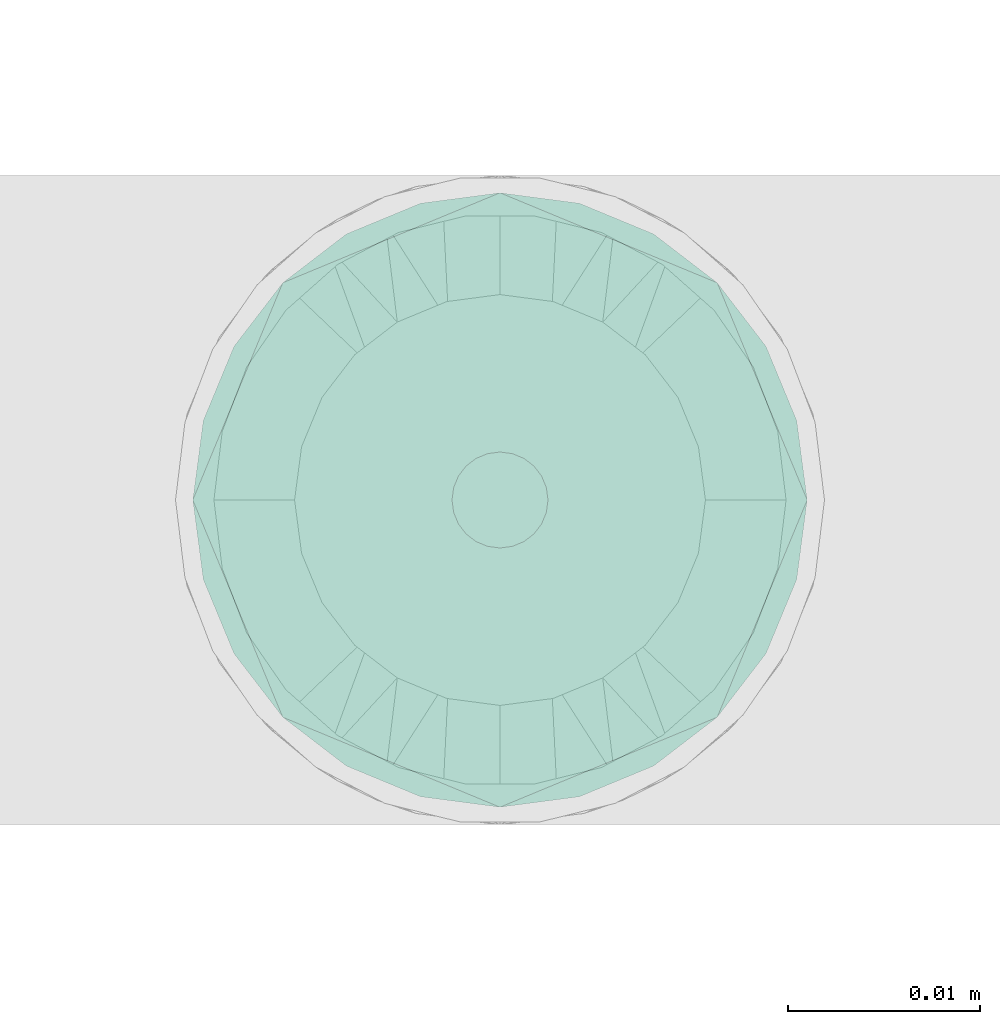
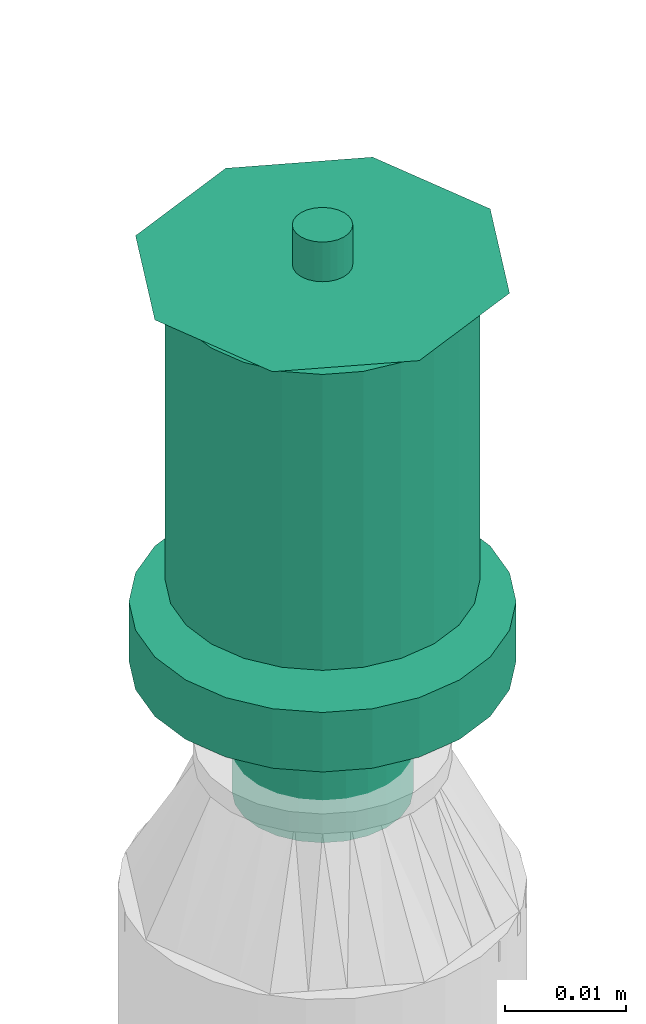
# One storey, part 32 of 157: 1 flow terminal.
"""IFC2X3 building model written with IfcOpenShell, lengths in millimetres."""

from ifc_helpers import new_model, entity, si_unit, converted_unit, derived_unit, direction, frame, origin_with_axes, place, context, subcontext, project, spatial, open_shell, surface_model, source, transform, mapped, type_object, element, save


model = new_model("IFC2X3")

# Units and contexts
model_context = context("Model", 3, precision=0.01, world=frame((0.0, 4.29681676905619e-09, 0.0)), true_north=direction((4.01073788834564e-13, 1.0)))
plan_context = context("Plan", 3, precision=0.01, world=frame((0.0, 4.29681676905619e-09, 0.0)), true_north=direction((4.01073788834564e-13, 1.0)))
body_context = subcontext(model_context, "Body", "Model", "MODEL_VIEW")
ifc_project = project(units=[converted_unit("PLANEANGLEUNIT", "DEGREE", entity("IfcPositiveLengthMeasure", 0.0174532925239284), si_unit("PLANEANGLEUNIT", "RADIAN"), dimensions=[0, 0, 0, 0, 0, 0, 0]), si_unit("AREAUNIT", "SQUARE_METRE"), si_unit("LENGTHUNIT", "METRE", prefix="MILLI"), si_unit("MASSUNIT", "GRAM", prefix="KILO"), si_unit("POWERUNIT", "WATT"), si_unit("PRESSUREUNIT", "PASCAL"), si_unit("FORCEUNIT", "NEWTON", prefix="KILO"), si_unit("ELECTRICCURRENTUNIT", "AMPERE"), si_unit("THERMODYNAMICTEMPERATUREUNIT", "DEGREE_CELSIUS"), si_unit("TIMEUNIT", "SECOND"), si_unit("VOLUMEUNIT", "CUBIC_METRE"), derived_unit("LINEARVELOCITYUNIT", [(si_unit("LENGTHUNIT", "METRE"), 1), (si_unit("TIMEUNIT", "SECOND"), -1)]), derived_unit("VOLUMETRICFLOWRATEUNIT", [(si_unit("VOLUMEUNIT", "CUBIC_METRE"), 1), (si_unit("TIMEUNIT", "SECOND"), -1)]), derived_unit("THERMALTRANSMITTANCEUNIT", [(si_unit("POWERUNIT", "WATT"), 1), (si_unit("THERMODYNAMICTEMPERATUREUNIT", "KELVIN"), -1), (si_unit("AREAUNIT", "SQUARE_METRE"), -1)])], contexts=[model_context, plan_context])

# Site, building, storey
site_placement = place(None, frame((0.0, -4.29681676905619e-09, 0.0), z_axis=(0.0, 0.0, 1.0), x_axis=(1.0, 0.0, 0.0)))
site = spatial("IfcSite", under=ifc_project, at=site_placement, CompositionType="ELEMENT")
building_placement = place(site_placement, frame((0.0, 4.29681676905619e-09, 0.0), z_axis=(0.0, 0.0, 1.0), x_axis=(1.0, 0.0, 0.0)))
building = spatial("IfcBuilding", under=site, at=building_placement, Name="mc-building", CompositionType="ELEMENT")
storey_placement = place(building_placement, frame((0.0, 0.0, 204000.0), z_axis=(0.0, 0.0, 1.0), x_axis=(1.0, 0.0, 0.0)))
storey = spatial("IfcBuildingStorey", under=building, at=storey_placement, Name="Nivå D", CompositionType="ELEMENT", Elevation=204000.0)

# Flow terminal
fire_suppression_terminal_type = type_object("IfcFireSuppressionTerminalType", Name="68DGR-STD-STÅENDE", PredefinedType="NOTDEFINED")
shared_shape = source(origin_with_axes(), body_context, "Body", "SurfaceModel", [
    surface_model("IfcShellBasedSurfaceModel", [(3.36465, -12.55704, 51.0), (6.5, -11.25833, 51.0), (9.19239, -9.19239, 51.0), (12.55704, -3.36465, 51.0), (-11.25833, -6.5, 51.0), (11.25833, -6.5, 51.0), (-13.0, 0.0, 51.0), (0.0, -13.0, 51.0), (-6.5, -11.25833, 51.0), (-3.36465, -12.55704, 51.0), (-9.19239, -9.19239, 51.0), (-12.55704, -3.36465, 51.0), (13.0, 0.0, 51.0), (12.55704, 3.36465, 51.0), (11.25833, 6.5, 51.0), (9.19239, 9.19239, 51.0), (6.5, 11.25833, 51.0), (3.36465, 12.55704, 51.0), (0.0, 13.0, 51.0), (-3.36465, 12.55704, 51.0), (-12.55704, 3.36465, 51.0), (-9.19239, 9.19239, 51.0), (-11.25833, 6.5, 51.0), (-6.5, 11.25833, 51.0), (0.0, 13.0, 21.14766), (3.36465, 12.55704, 21.14766), (6.5, 11.25833, 21.14766), (-3.36465, 12.55704, 21.14766), (9.19239, 9.19239, 21.14766), (11.25833, 6.5, 21.14766), (12.55704, 3.36465, 21.14766), (-12.55704, 3.36465, 21.14766), (-11.25833, -6.5, 21.14766), (-9.19239, 9.19239, 21.14766), (-6.5, 11.25833, 21.14766), (-11.25833, 6.5, 21.14766), (-13.0, 0.0, 21.14766), (12.55704, -3.36465, 21.14766), (9.19239, -9.19239, 21.14766), (11.25833, -6.5, 21.14766), (6.5, -11.25833, 21.14766), (3.36465, -12.55704, 21.14766), (-6.5, -11.25833, 21.14766), (-9.19239, -9.19239, 21.14766), (-12.55704, -3.36465, 21.14766), (0.0, -13.0, 21.14766), (-3.36465, -12.55704, 21.14766), (13.0, 0.0, 21.14766), (7.24444, -1.94114, 0.1), (1.94114, -7.24444, 0.1), (3.75, -6.49519, 0.1), (5.3033, -5.3033, 0.1), (-5.3033, -5.3033, 0.1), (6.49519, -3.75, 0.1), (5.3033, 5.3033, 0.1), (0.0, -7.5, 0.1), (-3.75, -6.49519, 0.1), (-1.94114, -7.24444, 0.1), (-7.24444, -1.94114, 0.1), (-6.49519, -3.75, 0.1), (-7.24444, 1.94114, 0.1), (7.5, 0.0, 0.1), (6.49519, 3.75, 0.1), (-6.49519, 3.75, 0.1), (1.94114, 7.24444, 0.1), (0.0, 7.5, 0.1), (3.75, 6.49519, 0.1), (-7.5, 0.0, 0.1), (-5.3033, 5.3033, 0.1), (-1.94114, 7.24444, 0.1), (-3.75, 6.49519, 0.1), (7.24444, 1.94114, 0.1), (1.94114, 7.24444, -0.1), (-6.49519, 3.75, -0.1), (0.0, 7.5, -0.1), (5.3033, 5.3033, -0.1), (3.75, 6.49519, -0.1), (6.49519, 3.75, -0.1), (7.24444, 1.94114, -0.1), (-1.94114, 7.24444, -0.1), (-5.3033, 5.3033, -0.1), (-3.75, 6.49519, -0.1), (-7.24444, 1.94114, -0.1), (-7.24444, -1.94114, -0.1), (-7.5, 0.0, -0.1), (7.5, 0.0, -0.1), (7.24444, -1.94114, -0.1), (-5.3033, -5.3033, -0.1), (1.94114, -7.24444, -0.1), (6.49519, -3.75, -0.1), (5.3033, -5.3033, -0.1), (3.75, -6.49519, -0.1), (-6.49519, -3.75, -0.1), (-3.75, -6.49519, -0.1), (0.0, -7.5, -0.1), (-1.94114, -7.24444, -0.1), (0.0, -2.5, 51.0), (-2.5, 0.0, 51.0), (0.0, 2.5, 51.0), (2.5, 0.0, 51.0), (0.0, -16.0, 53.0), (11.31371, -11.31371, 53.0), (-11.31371, -11.31371, 53.0), (-16.0, 0.0, 53.0), (16.0, 0.0, 53.0), (11.31371, 11.31371, 53.0), (0.0, 16.0, 53.0), (-11.31371, 11.31371, 53.0), (1.25, -2.16506, 57.0), (0.0, -2.5, 57.0), (0.64705, -2.41481, 57.0), (2.41481, -0.64705, 57.0), (1.76777, -1.76777, 57.0), (-2.41481, -0.64705, 57.0), (-2.5, 0.0, 57.0), (2.16506, -1.25, 57.0), (-1.25, -2.16506, 57.0), (-0.64705, -2.41481, 57.0), (-1.76777, -1.76777, 57.0), (-2.16506, -1.25, 57.0), (2.5, 0.0, 57.0), (2.41481, 0.64705, 57.0), (2.16506, 1.25, 57.0), (1.76777, 1.76777, 57.0), (0.64705, 2.41481, 57.0), (1.25, 2.16506, 57.0), (-1.76777, 1.76777, 57.0), (0.0, 2.5, 57.0), (-2.16506, 1.25, 57.0), (-2.41481, 0.64705, 57.0), (-0.64705, 2.41481, 57.0), (-1.25, 2.16506, 57.0), (1.25, 2.16506, 51.0), (1.76777, 1.76777, 51.0), (1.15, 1.99186, 51.0), (0.59528, 2.22163, 51.0), (0.64705, 2.41481, 51.0), (0.0, 2.3, 51.0), (1.62635, 1.62635, 51.0), (2.41481, 0.64705, 51.0), (2.3, 0.0, 51.0), (2.22163, 0.59528, 51.0), (2.16506, 1.25, 51.0), (1.99186, 1.15, 51.0), (-0.59528, 2.22163, 51.0), (-0.64705, 2.41481, 51.0), (-1.15, 1.99186, 51.0), (-1.76777, 1.76777, 51.0), (-1.25, 2.16506, 51.0), (-1.62635, 1.62635, 51.0), (-1.99186, 1.15, 51.0), (-2.16506, 1.25, 51.0), (-2.22163, 0.59528, 51.0), (-2.41481, 0.64705, 51.0), (-2.3, 0.0, 51.0), (2.41481, -0.64705, 51.0), (2.22163, -0.59528, 51.0), (1.99186, -1.15, 51.0), (2.16506, -1.25, 51.0), (1.62635, -1.62635, 51.0), (1.76777, -1.76777, 51.0), (1.25, -2.16506, 51.0), (1.15, -1.99186, 51.0), (0.59528, -2.22163, 51.0), (0.64705, -2.41481, 51.0), (0.0, -2.3, 51.0), (-2.16506, -1.25, 51.0), (-1.99186, -1.15, 51.0), (-1.76777, -1.76777, 51.0), (-1.62635, -1.62635, 51.0), (-2.41481, -0.64705, 51.0), (-2.22163, -0.59528, 51.0), (-0.59528, -2.22163, 51.0), (-0.64705, -2.41481, 51.0), (-1.15, -1.99186, 51.0), (-1.25, -2.16506, 51.0), (1.62635, -1.62635, 56.8), (1.15, -1.99186, 56.8), (0.59528, -2.22163, 56.8), (0.0, -2.3, 56.8), (2.22163, 0.59528, 56.8), (1.99186, -1.15, 56.8), (2.22163, -0.59528, 56.8), (-0.59528, -2.22163, 56.8), (-1.15, -1.99186, 56.8), (-1.62635, -1.62635, 56.8), (-1.99186, -1.15, 56.8), (-2.22163, -0.59528, 56.8), (-1.99186, 1.15, 56.8), (2.3, 0.0, 56.8), (1.62635, 1.62635, 56.8), (1.99186, 1.15, 56.8), (1.15, 1.99186, 56.8), (0.0, 2.3, 56.8), (0.59528, 2.22163, 56.8), (-2.22163, 0.59528, 56.8), (-2.3, 0.0, 56.8), (-1.15, 1.99186, 56.8), (-0.59528, 2.22163, 56.8), (-1.62635, 1.62635, 56.8), (4.1411, -15.45481, 19.0), (8.0, -13.85641, 19.0), (11.31371, -11.31371, 19.0), (-8.0, -13.85641, 19.0), (15.45481, -4.1411, 19.0), (16.0, 0.0, 19.0), (13.85641, -8.0, 19.0), (0.0, -16.0, 19.0), (-4.1411, -15.45481, 19.0), (-13.85641, -8.0, 19.0), (-11.31371, -11.31371, 19.0), (-15.45481, -4.1411, 19.0), (15.45481, 4.1411, 19.0), (13.85641, 8.0, 19.0), (11.31371, 11.31371, 19.0), (-4.1411, 15.45481, 19.0), (8.0, 13.85641, 19.0), (4.1411, 15.45481, 19.0), (0.0, 16.0, 19.0), (-13.85641, 8.0, 19.0), (-15.45481, 4.1411, 19.0), (-16.0, 0.0, 19.0), (-11.31371, 11.31371, 19.0), (-8.0, 13.85641, 19.0), (0.0, 16.0, 13.0), (4.1411, 15.45481, 13.0), (8.0, 13.85641, 13.0), (-4.1411, 15.45481, 13.0), (11.31371, 11.31371, 13.0), (13.85641, 8.0, 13.0), (15.45481, 4.1411, 13.0), (-15.45481, -4.1411, 13.0), (-11.31371, 11.31371, 13.0), (-8.0, 13.85641, 13.0), (-13.85641, 8.0, 13.0), (-15.45481, 4.1411, 13.0), (-16.0, 0.0, 13.0), (4.1411, -15.45481, 13.0), (16.0, 0.0, 13.0), (15.45481, -4.1411, 13.0), (13.85641, -8.0, 13.0), (11.31371, -11.31371, 13.0), (8.0, -13.85641, 13.0), (-8.0, -13.85641, 13.0), (-13.85641, -8.0, 13.0), (-11.31371, -11.31371, 13.0), (0.0, -16.0, 13.0), (-4.1411, -15.45481, 13.0), (7.24444, -1.94114, 13.0), (1.94114, -7.24444, 13.0), (3.75, -6.49519, 13.0), (5.3033, -5.3033, 13.0), (-5.3033, -5.3033, 13.0), (6.49519, -3.75, 13.0), (5.3033, 5.3033, 13.0), (0.0, -7.5, 13.0), (-3.75, -6.49519, 13.0), (-1.94114, -7.24444, 13.0), (-7.24444, -1.94114, 13.0), (-6.49519, -3.75, 13.0), (-7.24444, 1.94114, 13.0), (7.5, 0.0, 13.0), (6.49519, 3.75, 13.0), (-6.49519, 3.75, 13.0), (1.94114, 7.24444, 13.0), (0.0, 7.5, 13.0), (3.75, 6.49519, 13.0), (-7.5, 0.0, 13.0), (-5.3033, 5.3033, 13.0), (-1.94114, 7.24444, 13.0), (-3.75, 6.49519, 13.0), (7.24444, 1.94114, 13.0), (3.75, 6.49519, 0.0), (5.3033, 5.3033, 0.0), (3.65, 6.32199, 0.0), (1.88938, 7.05126, 0.0), (0.0, 7.3, 0.0), (1.94114, 7.24444, 0.0), (0.0, 7.5, 0.0), (5.16188, 5.16188, 0.0), (7.24444, 1.94114, 0.0), (7.3, 0.0, 0.0), (7.05126, 1.88938, 0.0), (7.5, 0.0, 0.0), (6.49519, 3.75, 0.0), (6.32199, 3.65, 0.0), (-1.88938, 7.05126, 0.0), (-1.94114, 7.24444, 0.0), (-3.65, 6.32199, 0.0), (-5.3033, 5.3033, 0.0), (-3.75, 6.49519, 0.0), (-5.16188, 5.16188, 0.0), (-6.32199, 3.65, 0.0), (-6.49519, 3.75, 0.0), (-7.05126, 1.88938, 0.0), (-7.24444, 1.94114, 0.0), (-7.3, 0.0, 0.0), (-7.5, 0.0, 0.0), (7.24444, -1.94114, 0.0), (7.05126, -1.88938, 0.0), (6.32199, -3.65, 0.0), (6.49519, -3.75, 0.0), (5.16188, -5.16188, 0.0), (5.3033, -5.3033, 0.0), (3.75, -6.49519, 0.0), (3.65, -6.32199, 0.0), (1.88938, -7.05126, 0.0), (1.94114, -7.24444, 0.0), (0.0, -7.3, 0.0), (0.0, -7.5, 0.0), (-6.49519, -3.75, 0.0), (-6.32199, -3.65, 0.0), (-5.3033, -5.3033, 0.0), (-5.16188, -5.16188, 0.0), (-7.24444, -1.94114, 0.0), (-7.05126, -1.88938, 0.0), (-1.88938, -7.05126, 0.0), (-1.94114, -7.24444, 0.0), (-3.65, -6.32199, 0.0), (-3.75, -6.49519, 0.0), (1.88938, -7.05126, 12.8), (0.0, -7.3, 12.8), (3.65, -6.32199, 12.8), (5.16188, -5.16188, 12.8), (6.32199, -3.65, 12.8), (7.05126, 1.88938, 12.8), (7.05126, -1.88938, 12.8), (-5.16188, -5.16188, 12.8), (-1.88938, -7.05126, 12.8), (-3.65, -6.32199, 12.8), (-6.32199, -3.65, 12.8), (-7.05126, -1.88938, 12.8), (0.0, 7.3, 12.8), (7.3, 0.0, 12.8), (6.32199, 3.65, 12.8), (5.16188, 5.16188, 12.8), (3.65, 6.32199, 12.8), (1.88938, 7.05126, 12.8), (-6.32199, 3.65, 12.8), (-7.05126, 1.88938, 12.8), (-7.3, 0.0, 12.8), (-3.65, 6.32199, 12.8), (-1.88938, 7.05126, 12.8), (-5.16188, 5.16188, 12.8)], [open_shell([[[0, 1, 2]], [[0, 2, 3]], [[0, 3, 4]], [[3, 2, 5]], [[6, 4, 3]], [[7, 8, 9]], [[7, 0, 8]], [[8, 4, 10]], [[0, 4, 8]], [[4, 6, 11]], [[6, 3, 12]], [[13, 14, 15]], [[6, 13, 15]], [[16, 17, 18]], [[15, 16, 19]], [[18, 19, 16]], [[20, 21, 22]], [[20, 6, 15]], [[21, 19, 23]], [[19, 21, 20]], [[15, 19, 20]], [[13, 6, 12]], [[24, 25, 26]], [[27, 24, 26]], [[28, 29, 30]], [[26, 28, 31]], [[28, 32, 31]], [[27, 33, 34]], [[33, 27, 31]], [[33, 31, 35]], [[27, 26, 31]], [[31, 32, 36]], [[32, 28, 30]], [[32, 30, 37]], [[38, 37, 39]], [[38, 40, 41]], [[38, 41, 37]], [[32, 37, 41]], [[32, 42, 43]], [[44, 36, 32]], [[42, 45, 46]], [[42, 32, 41]], [[45, 42, 41]], [[30, 47, 37]], [[4, 32, 43]], [[8, 42, 46]], [[43, 42, 10]], [[9, 46, 45]], [[36, 11, 6]], [[11, 36, 44]], [[11, 44, 4]], [[44, 32, 4]], [[43, 10, 4]], [[8, 10, 42]], [[46, 9, 8]], [[45, 7, 9]], [[0, 41, 40]], [[38, 1, 40]], [[5, 39, 37]], [[38, 39, 2]], [[3, 37, 47]], [[41, 0, 7]], [[40, 1, 0]], [[38, 2, 1]], [[39, 5, 2]], [[3, 5, 37]], [[47, 12, 3]], [[41, 7, 45]], [[30, 13, 47]], [[29, 14, 30]], [[25, 24, 17]], [[15, 29, 28]], [[30, 14, 13]], [[13, 12, 47]], [[16, 26, 17]], [[16, 15, 28]], [[26, 25, 17]], [[15, 14, 29]], [[28, 26, 16]], [[24, 18, 17]], [[19, 27, 34]], [[33, 23, 34]], [[22, 35, 31]], [[33, 35, 21]], [[20, 31, 36]], [[27, 19, 18]], [[34, 23, 19]], [[33, 21, 23]], [[35, 22, 21]], [[20, 22, 31]], [[36, 6, 20]], [[27, 18, 24]], [[48, 49, 50]], [[48, 50, 51]], [[49, 48, 52]], [[48, 51, 53]], [[54, 52, 48]], [[55, 56, 57]], [[56, 55, 52]], [[52, 58, 59]], [[52, 55, 49]], [[52, 60, 58]], [[54, 48, 61]], [[62, 54, 61]], [[54, 63, 52]], [[64, 65, 54]], [[64, 54, 66]], [[63, 54, 65]], [[63, 60, 52]], [[67, 58, 60]], [[68, 69, 70]], [[69, 68, 63]], [[69, 63, 65]], [[71, 62, 61]], [[72, 73, 74]], [[75, 72, 76]], [[75, 77, 78]], [[72, 75, 73]], [[78, 73, 75]], [[79, 80, 81]], [[80, 79, 73]], [[74, 73, 79]], [[78, 82, 73]], [[82, 83, 84]], [[82, 78, 85]], [[86, 87, 85]], [[88, 86, 89]], [[90, 91, 88]], [[90, 88, 89]], [[87, 86, 88]], [[83, 87, 92]], [[83, 85, 87]], [[93, 94, 95]], [[94, 93, 87]], [[88, 94, 87]], [[85, 83, 82]], [[83, 58, 84]], [[92, 59, 83]], [[56, 87, 93]], [[92, 87, 52]], [[57, 93, 95]], [[83, 59, 58]], [[58, 67, 84]], [[57, 56, 93]], [[52, 87, 56]], [[52, 59, 92]], [[55, 57, 95]], [[95, 94, 55]], [[88, 49, 94]], [[91, 50, 88]], [[53, 90, 89]], [[91, 90, 51]], [[48, 89, 86]], [[91, 51, 50]], [[50, 49, 88]], [[61, 48, 86]], [[53, 89, 48]], [[53, 51, 90]], [[85, 61, 86]], [[94, 49, 55]], [[78, 71, 85]], [[77, 62, 78]], [[66, 75, 76]], [[77, 75, 54]], [[64, 76, 72]], [[78, 62, 71]], [[71, 61, 85]], [[64, 66, 76]], [[54, 75, 66]], [[54, 62, 77]], [[65, 64, 72]], [[72, 74, 65]], [[79, 69, 74]], [[81, 70, 79]], [[63, 80, 73]], [[81, 80, 68]], [[60, 73, 82]], [[81, 68, 70]], [[70, 69, 79]], [[67, 60, 82]], [[63, 73, 60]], [[63, 68, 80]], [[84, 67, 82]], [[74, 69, 65]], [[96, 97, 98]], [[98, 99, 96]], [[100, 101, 102]], [[103, 102, 101]], [[101, 104, 103]], [[104, 105, 106]], [[107, 103, 106]], [[106, 103, 104]], [[99, 98, 105]], [[105, 104, 99]], [[98, 106, 105]], [[98, 107, 106]], [[107, 98, 97]], [[103, 107, 97]], [[97, 96, 102]], [[102, 103, 97]], [[96, 100, 102]], [[96, 101, 100]], [[101, 96, 99]], [[104, 101, 99]], [[108, 109, 110]], [[111, 108, 112]], [[113, 108, 114]], [[111, 112, 115]], [[108, 111, 114]], [[109, 116, 117]], [[116, 109, 118]], [[118, 113, 119]], [[118, 109, 108]], [[108, 113, 118]], [[111, 120, 114]], [[121, 122, 123]], [[114, 121, 123]], [[114, 123, 124]], [[124, 123, 125]], [[126, 124, 127]], [[124, 128, 129]], [[129, 114, 124]], [[126, 130, 131]], [[128, 124, 126]], [[130, 126, 127]], [[121, 114, 120]], [[132, 133, 134]], [[132, 134, 135]], [[136, 135, 137]], [[135, 136, 132]], [[136, 137, 98]], [[134, 133, 138]], [[139, 140, 141]], [[140, 139, 99]], [[139, 141, 142]], [[138, 142, 143]], [[142, 138, 133]], [[143, 142, 141]], [[98, 144, 145]], [[98, 137, 144]], [[145, 144, 146]], [[147, 148, 149]], [[146, 148, 145]], [[149, 148, 146]], [[150, 151, 147]], [[151, 150, 152]], [[150, 147, 149]], [[153, 152, 154]], [[152, 153, 151]], [[153, 154, 97]], [[99, 155, 156]], [[156, 155, 157]], [[157, 158, 159]], [[158, 157, 155]], [[159, 158, 160]], [[160, 161, 162]], [[162, 161, 163]], [[163, 164, 165]], [[164, 163, 161]], [[165, 164, 96]], [[162, 159, 160]], [[166, 167, 168]], [[168, 167, 169]], [[167, 166, 170]], [[97, 171, 170]], [[170, 171, 167]], [[97, 154, 171]], [[172, 96, 173]], [[172, 173, 174]], [[169, 175, 168]], [[175, 169, 174]], [[175, 174, 173]], [[165, 96, 172]], [[156, 140, 99]], [[170, 113, 97]], [[166, 119, 170]], [[116, 168, 175]], [[166, 168, 118]], [[117, 175, 173]], [[170, 119, 113]], [[113, 114, 97]], [[117, 116, 175]], [[118, 168, 116]], [[118, 119, 166]], [[109, 117, 173]], [[173, 96, 109]], [[164, 110, 96]], [[161, 108, 164]], [[115, 160, 158]], [[161, 160, 112]], [[111, 158, 155]], [[161, 112, 108]], [[108, 110, 164]], [[120, 111, 155]], [[115, 158, 111]], [[115, 112, 160]], [[99, 120, 155]], [[96, 110, 109]], [[139, 121, 99]], [[142, 122, 139]], [[125, 133, 132]], [[142, 133, 123]], [[124, 132, 136]], [[139, 122, 121]], [[121, 120, 99]], [[124, 125, 132]], [[123, 133, 125]], [[123, 122, 142]], [[127, 124, 136]], [[136, 98, 127]], [[145, 130, 98]], [[148, 131, 145]], [[128, 147, 151]], [[148, 147, 126]], [[129, 151, 153]], [[148, 126, 131]], [[131, 130, 145]], [[114, 129, 153]], [[128, 151, 129]], [[128, 126, 147]], [[97, 114, 153]], [[98, 130, 127]], [[176, 177, 178]], [[176, 178, 179]], [[180, 176, 179]], [[181, 176, 182]], [[180, 182, 176]], [[183, 184, 179]], [[185, 179, 184]], [[186, 187, 185]], [[185, 187, 188]], [[179, 185, 188]], [[189, 182, 180]], [[190, 191, 180]], [[192, 190, 180]], [[193, 194, 192]], [[180, 193, 192]], [[188, 193, 180]], [[195, 188, 196]], [[196, 188, 187]], [[197, 198, 199]], [[188, 199, 198]], [[188, 198, 193]], [[180, 179, 188]], [[154, 187, 171]], [[171, 186, 167]], [[174, 169, 184]], [[185, 169, 167]], [[172, 174, 183]], [[187, 186, 171]], [[154, 196, 187]], [[174, 184, 183]], [[184, 169, 185]], [[167, 186, 185]], [[172, 183, 179]], [[179, 165, 172]], [[165, 178, 163]], [[163, 177, 162]], [[157, 159, 181]], [[176, 159, 162]], [[156, 157, 182]], [[177, 176, 162]], [[163, 178, 177]], [[156, 182, 189]], [[182, 157, 181]], [[159, 176, 181]], [[156, 189, 140]], [[179, 178, 165]], [[140, 180, 141]], [[141, 191, 143]], [[134, 138, 192]], [[190, 138, 143]], [[135, 134, 194]], [[180, 191, 141]], [[140, 189, 180]], [[134, 192, 194]], [[192, 138, 190]], [[143, 191, 190]], [[135, 194, 193]], [[193, 137, 135]], [[137, 198, 144]], [[144, 197, 146]], [[150, 149, 188]], [[199, 149, 146]], [[152, 150, 195]], [[197, 199, 146]], [[144, 198, 197]], [[152, 195, 196]], [[195, 150, 188]], [[149, 199, 188]], [[152, 196, 154]], [[193, 198, 137]], [[200, 201, 202]], [[203, 200, 202]], [[204, 205, 202]], [[204, 202, 206]], [[203, 202, 205]], [[207, 203, 208]], [[207, 200, 203]], [[203, 209, 210]], [[209, 203, 211]], [[205, 211, 203]], [[205, 212, 211]], [[212, 213, 214]], [[215, 212, 214]], [[216, 217, 218]], [[214, 216, 215]], [[218, 215, 216]], [[211, 219, 220]], [[221, 211, 220]], [[222, 215, 223]], [[215, 222, 219]], [[219, 211, 215]], [[211, 212, 215]], [[224, 225, 226]], [[227, 224, 226]], [[228, 229, 230]], [[227, 226, 228]], [[227, 228, 231]], [[227, 232, 233]], [[232, 227, 234]], [[234, 231, 235]], [[231, 234, 227]], [[235, 231, 236]], [[228, 230, 231]], [[237, 238, 239]], [[237, 239, 240]], [[241, 242, 237]], [[241, 237, 240]], [[238, 237, 243]], [[244, 243, 245]], [[243, 244, 231]], [[243, 246, 247]], [[243, 231, 238]], [[237, 246, 243]], [[238, 231, 230]], [[231, 211, 236]], [[244, 209, 231]], [[203, 245, 243]], [[244, 245, 210]], [[208, 243, 247]], [[231, 209, 211]], [[211, 221, 236]], [[208, 203, 243]], [[210, 245, 203]], [[210, 209, 244]], [[207, 208, 247]], [[247, 246, 207]], [[237, 200, 246]], [[242, 201, 237]], [[206, 241, 240]], [[242, 241, 202]], [[204, 240, 239]], [[242, 202, 201]], [[201, 200, 237]], [[205, 204, 239]], [[206, 240, 204]], [[206, 202, 241]], [[238, 205, 239]], [[246, 200, 207]], [[230, 212, 238]], [[229, 213, 230]], [[216, 228, 226]], [[229, 228, 214]], [[217, 226, 225]], [[230, 213, 212]], [[212, 205, 238]], [[217, 216, 226]], [[214, 228, 216]], [[214, 213, 229]], [[218, 217, 225]], [[225, 224, 218]], [[227, 215, 224]], [[233, 223, 227]], [[219, 232, 234]], [[233, 232, 222]], [[220, 234, 235]], [[233, 222, 223]], [[223, 215, 227]], [[221, 220, 235]], [[219, 234, 220]], [[219, 222, 232]], [[236, 221, 235]], [[224, 215, 218]], [[248, 249, 250]], [[248, 250, 251]], [[249, 248, 252]], [[248, 251, 253]], [[254, 252, 248]], [[255, 256, 257]], [[256, 255, 252]], [[252, 258, 259]], [[252, 255, 249]], [[252, 260, 258]], [[254, 248, 261]], [[262, 254, 261]], [[254, 263, 252]], [[264, 265, 254]], [[264, 254, 266]], [[263, 254, 265]], [[263, 260, 252]], [[267, 258, 260]], [[268, 269, 270]], [[269, 268, 263]], [[269, 263, 265]], [[271, 262, 261]], [[272, 273, 274]], [[272, 274, 275]], [[276, 277, 275]], [[277, 276, 278]], [[275, 277, 272]], [[274, 273, 279]], [[280, 281, 282]], [[281, 280, 283]], [[280, 282, 284]], [[279, 284, 285]], [[284, 279, 273]], [[285, 284, 282]], [[278, 286, 287]], [[287, 286, 288]], [[289, 290, 291]], [[288, 290, 287]], [[288, 291, 290]], [[278, 276, 286]], [[292, 293, 289]], [[293, 292, 294]], [[292, 289, 291]], [[295, 294, 296]], [[294, 295, 293]], [[295, 296, 297]], [[283, 298, 299]], [[299, 298, 300]], [[300, 301, 302]], [[301, 300, 298]], [[302, 301, 303]], [[303, 304, 305]], [[305, 304, 306]], [[306, 307, 308]], [[307, 306, 304]], [[308, 307, 309]], [[305, 302, 303]], [[310, 311, 312]], [[312, 311, 313]], [[311, 310, 314]], [[297, 315, 314]], [[314, 315, 311]], [[297, 296, 315]], [[316, 309, 317]], [[316, 317, 318]], [[313, 319, 312]], [[313, 318, 319]], [[319, 318, 317]], [[308, 309, 316]], [[299, 281, 283]], [[314, 258, 297]], [[310, 259, 314]], [[256, 312, 319]], [[310, 312, 252]], [[257, 319, 317]], [[314, 259, 258]], [[258, 267, 297]], [[257, 256, 319]], [[252, 312, 256]], [[252, 259, 310]], [[255, 257, 317]], [[317, 309, 255]], [[307, 249, 309]], [[304, 250, 307]], [[253, 303, 301]], [[304, 303, 251]], [[248, 301, 298]], [[304, 251, 250]], [[250, 249, 307]], [[261, 248, 298]], [[253, 301, 248]], [[253, 251, 303]], [[283, 261, 298]], [[309, 249, 255]], [[280, 271, 283]], [[284, 262, 280]], [[266, 273, 272]], [[284, 273, 254]], [[264, 272, 277]], [[280, 262, 271]], [[271, 261, 283]], [[264, 266, 272]], [[254, 273, 266]], [[254, 262, 284]], [[265, 264, 277]], [[277, 278, 265]], [[287, 269, 278]], [[290, 270, 287]], [[263, 289, 293]], [[290, 289, 268]], [[260, 293, 295]], [[290, 268, 270]], [[270, 269, 287]], [[267, 260, 295]], [[263, 293, 260]], [[263, 268, 289]], [[297, 267, 295]], [[278, 269, 265]], [[320, 321, 322]], [[323, 322, 324]], [[325, 326, 322]], [[324, 322, 326]], [[322, 327, 325]], [[328, 329, 321]], [[327, 321, 329]], [[330, 331, 327]], [[322, 321, 327]], [[331, 332, 327]], [[326, 325, 333]], [[334, 325, 332]], [[335, 334, 336]], [[332, 337, 336]], [[334, 332, 336]], [[331, 338, 332]], [[339, 338, 340]], [[340, 338, 331]], [[341, 342, 343]], [[332, 338, 343]], [[332, 343, 342]], [[332, 325, 327]], [[296, 331, 315]], [[315, 330, 311]], [[318, 313, 329]], [[327, 313, 311]], [[316, 318, 328]], [[331, 330, 315]], [[296, 340, 331]], [[318, 329, 328]], [[329, 313, 327]], [[311, 330, 327]], [[316, 328, 321]], [[321, 308, 316]], [[308, 320, 306]], [[306, 322, 305]], [[300, 302, 324]], [[323, 302, 305]], [[299, 300, 326]], [[322, 323, 305]], [[306, 320, 322]], [[299, 326, 333]], [[326, 300, 324]], [[302, 323, 324]], [[299, 333, 281]], [[321, 320, 308]], [[281, 325, 282]], [[282, 334, 285]], [[274, 279, 336]], [[335, 279, 285]], [[275, 274, 337]], [[325, 334, 282]], [[281, 333, 325]], [[274, 336, 337]], [[336, 279, 335]], [[285, 334, 335]], [[275, 337, 332]], [[332, 276, 275]], [[276, 342, 286]], [[286, 341, 288]], [[292, 291, 338]], [[343, 291, 288]], [[294, 292, 339]], [[341, 343, 288]], [[286, 342, 341]], [[294, 339, 340]], [[339, 292, 338]], [[291, 343, 338]], [[294, 340, 296]], [[332, 342, 276]]])]),
])
flow_terminal_placement = place(storey_placement, frame((530770.35, 404401.65, 3011.5), z_axis=(0.0, 0.0, 1.0), x_axis=(1.0, 0.0, 0.0)))
element("IfcFlowTerminal", 1, at=flow_terminal_placement, inside=storey, type_object=fire_suppression_terminal_type, Name="68DGR-STD-STÅENDE", context=body_context, shape_type="MappedRepresentation", body=[
    mapped(shared_shape, transform((0.0, 0.0, 0.0), scale=1.0)),
])

save(model, "model.ifc")
